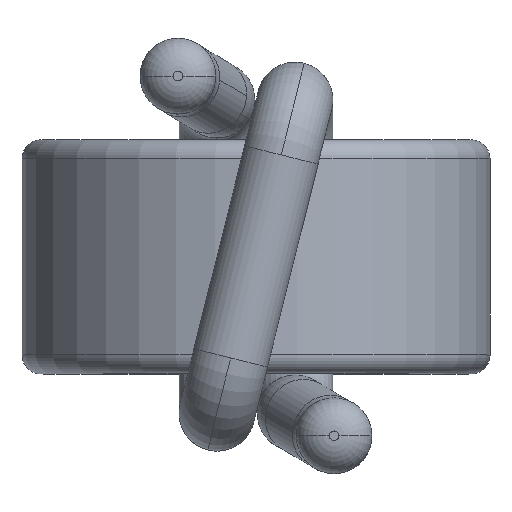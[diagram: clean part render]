
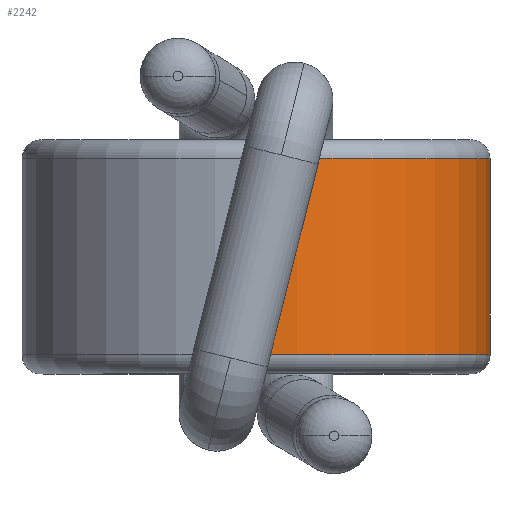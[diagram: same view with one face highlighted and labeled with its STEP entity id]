
A CAD part, top view. The second image highlights one B-rep face of the part: STEP entity #2242.
In plain terms, the highlighted cylindrical face has radius 4.945 mm (diameter 9.89 mm), a partial arc.
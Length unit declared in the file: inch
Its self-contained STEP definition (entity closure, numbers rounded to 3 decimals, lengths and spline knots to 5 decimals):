
#60 = DIRECTION ( 'NONE',  ( 0., 1., 0. ) ) ;
#97 = DIRECTION ( 'NONE',  ( 0., -1., 0. ) ) ;
#100 = EDGE_CURVE ( 'NONE', #1086, #1094, #999, .T. ) ;
#218 = VECTOR ( 'NONE', #1775, 39.37008 ) ;
#223 = LINE ( 'NONE', #1799, #218 ) ;
#262 = CARTESIAN_POINT ( 'NONE',  ( 0., 0.09738, -0.19469 ) ) ;
#321 = LINE ( 'NONE', #262, #1492 ) ;
#387 = ORIENTED_EDGE ( 'NONE', *, *, #581, .F. ) ;
#457 = DIRECTION ( 'NONE',  ( 0., 0., -1. ) ) ;
#461 = EDGE_CURVE ( 'NONE', #1094, #1930, #223, .T. ) ;
#564 = CARTESIAN_POINT ( 'NONE',  ( 0., 0.09738, 0. ) ) ;
#574 = DIRECTION ( 'NONE',  ( 0., 0., 1. ) ) ;
#580 = DIRECTION ( 'NONE',  ( 0., -1., 0. ) ) ;
#581 = EDGE_CURVE ( 'NONE', #1086, #1461, #321, .T. ) ;
#591 = ORIENTED_EDGE ( 'NONE', *, *, #100, .T. ) ;
#609 = EDGE_CURVE ( 'NONE', #1930, #1461, #2085, .T. ) ;
#736 = AXIS2_PLACEMENT_3D ( 'NONE', #1072, #60, #1723 ) ;
#799 = CARTESIAN_POINT ( 'NONE',  ( 0., -0.08163, -0.19469 ) ) ;
#985 = EDGE_LOOP ( 'NONE', ( #591, #2105, #1265, #387 ) ) ;
#999 = CIRCLE ( 'NONE', #2284, 0.19469 ) ;
#1072 = CARTESIAN_POINT ( 'NONE',  ( 0., -0.08163, 0. ) ) ;
#1086 = VERTEX_POINT ( 'NONE', #1504 ) ;
#1094 = VERTEX_POINT ( 'NONE', #1468 ) ;
#1116 = CARTESIAN_POINT ( 'NONE',  ( 0., 0.08163, 0. ) ) ;
#1159 = AXIS2_PLACEMENT_3D ( 'NONE', #564, #1500, #457 ) ;
#1265 = ORIENTED_EDGE ( 'NONE', *, *, #609, .T. ) ;
#1461 = VERTEX_POINT ( 'NONE', #799 ) ;
#1468 = CARTESIAN_POINT ( 'NONE',  ( 0., 0.08163, 0.19469 ) ) ;
#1492 = VECTOR ( 'NONE', #580, 39.37008 ) ;
#1500 = DIRECTION ( 'NONE',  ( 0., -1., 0. ) ) ;
#1504 = CARTESIAN_POINT ( 'NONE',  ( 0., 0.08163, -0.19469 ) ) ;
#1723 = DIRECTION ( 'NONE',  ( 0., 0., 1. ) ) ;
#1775 = DIRECTION ( 'NONE',  ( 0., -1., 0. ) ) ;
#1799 = CARTESIAN_POINT ( 'NONE',  ( 0., 0.09738, 0.19469 ) ) ;
#1812 = CYLINDRICAL_SURFACE ( 'NONE', #1159, 0.19469 ) ;
#1930 = VERTEX_POINT ( 'NONE', #2267 ) ;
#2019 = FACE_OUTER_BOUND ( 'NONE', #985, .T. ) ;
#2085 = CIRCLE ( 'NONE', #736, 0.19469 ) ;
#2105 = ORIENTED_EDGE ( 'NONE', *, *, #461, .T. ) ;
#2242 = ADVANCED_FACE ( 'NONE', ( #2019 ), #1812, .T. ) ;
#2267 = CARTESIAN_POINT ( 'NONE',  ( 0., -0.08163, 0.19469 ) ) ;
#2284 = AXIS2_PLACEMENT_3D ( 'NONE', #1116, #97, #574 ) ;
